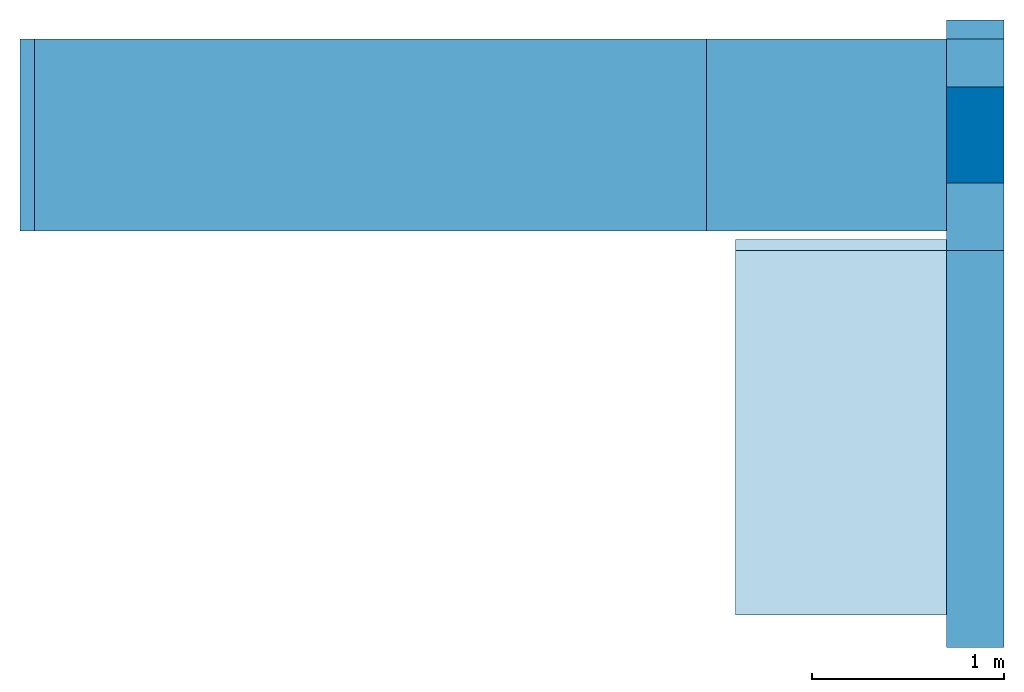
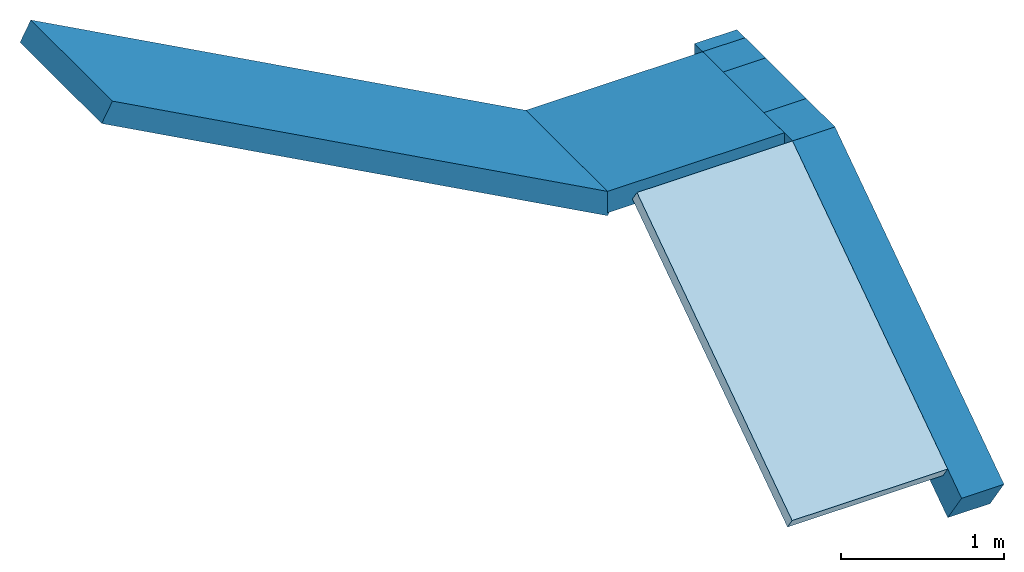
# One storey: 5 beams, 1 column, 1 slab.
"""IFC2X3 building model written with IfcOpenShell, lengths in metres."""

from ifc_helpers import new_model, si_unit, direction, frame, origin, origin_2d_with_axis, place, context, project, spatial, polyline, rectangle, outline, extrude, shape, element, save


model = new_model("IFC2X3")

# Units and contexts
model_context = context("Model", 3, precision=0.0, world=origin(), true_north=direction((0.0, 1.0)))
plan_context = context("Plan", 3, precision=0.0, world=origin(), true_north=direction((0.0, 1.0)))
ifc_project = project(units=[si_unit("LENGTHUNIT", "METRE"), si_unit("AREAUNIT", "SQUARE_METRE"), si_unit("VOLUMEUNIT", "CUBIC_METRE"), si_unit("PLANEANGLEUNIT", "RADIAN"), si_unit("THERMODYNAMICTEMPERATUREUNIT", "DEGREE_CELSIUS"), si_unit("FORCEUNIT", "NEWTON"), si_unit("MASSUNIT", "GRAM", prefix="KILO")], contexts=[model_context, plan_context])

# Site, building, storey
placement = place(None, origin())
site = spatial("IfcSite", under=ifc_project, at=placement, Name="Default Site", CompositionType="ELEMENT")
building = spatial("IfcBuilding", under=site, at=placement, Name="Default Building", CompositionType="ELEMENT")
storey_placement = place(placement, frame((0.0, 0.0, 1.3), z_axis=(1.0, 0.0, 0.0), x_axis=(0.0, 0.0, 1.0)))
storey = spatial("IfcBuildingStorey", under=building, at=storey_placement, Name="Piano 3", CompositionType="ELEMENT", Elevation=1.3)

# Column
column_placement = place(None, frame((10.1, 3.5, 1.3), z_axis=(0.0, 0.0, -1.0), x_axis=(-1.0, 0.0, 0.0)))
element("IfcColumn", 1, at=column_placement, inside=storey, Name="Pilastro:11 [Piano:3]", shapes=[
    shape(model_context, None, "SweptSolid", [extrude(rectangle(XDim=0.3, YDim=0.5, at=origin_2d_with_axis()), origin(), (0.0, 0.0, 1.0), 1.3)]),
])

# Beams
beam_1_placement = place(None, frame((10.1, 2.984703, 1.176204), z_axis=(0.0, -0.825307, -0.564684), x_axis=(1.0, 0.0, 0.0)))
element("IfcBeam", 2, at=beam_1_placement, inside=storey, Name="Trave:1 [Piano:3]", shapes=[
    shape(model_context, None, "SweptSolid", [extrude(rectangle(XDim=0.3, YDim=0.3, at=origin_2d_with_axis()), origin(), (0.0, 0.0, 1.0), 2.507436)]),
])
beam_2_placement = place(None, frame((8.7, 3.5, 1.22), z_axis=(1.0, 0.0, 0.0), x_axis=(0.0, 1.0, 0.0)))
element("IfcBeam", 3, at=beam_2_placement, inside=storey, Name="Trave:2 [Piano:3]", shapes=[
    shape(model_context, None, "SweptSolid", [extrude(rectangle(XDim=1.0, YDim=0.16, at=origin_2d_with_axis()), origin(), (0.0, 0.0, 1.0), 1.55)]),
])
beam_3_placement = place(None, frame((8.738167, 3.5, 1.188253), z_axis=(-0.878853, 0.0, 0.477092), x_axis=(0.0, -1.0, 0.0)))
element("IfcBeam", 4, at=beam_3_placement, inside=storey, Name="Trave:3 [Piano:3]", shapes=[
    shape(model_context, None, "SweptSolid", [extrude(rectangle(XDim=1.0, YDim=0.16, at=origin_2d_with_axis()), origin(), (0.0, 0.0, 1.0), 4.069319)]),
])
for number, where, z_axis, x_axis, name in (
    (5, (10.1, 2.9, 1.15), (0.0, 1.0, 0.0), (-1.0, 0.0, 0.0), "Trave:4 [Piano:3]"),
    (6, (10.1, 3.0, 1.15), (0.0, 1.0, 0.0), (-1.0, 0.0, 0.0), "Trave:5 [Piano:3]"),
):
    element("IfcBeam", number, at=place(None, frame(where, z_axis=z_axis, x_axis=x_axis)), inside=storey, Name=name, shapes=[
        shape(model_context, None, "SweptSolid", [extrude(rectangle(XDim=0.3, YDim=0.3, at=origin_2d_with_axis()), origin(), (0.0, 0.0, 1.0), 1.1)]),
    ])

# Slab
slab_placement = place(None, frame((9.475, 1.95, 0.65), z_axis=(0.0, 0.564684, -0.825307), x_axis=(-1.0, 0.0, 0.0)))
element("IfcSlab", 7, at=slab_placement, inside=storey, Name="Balcone:2 [Piano:3]", PredefinedType="FLOOR", shapes=[
    shape(model_context, None, "SweptSolid", [extrude(outline(polyline([(-0.625, 1.151086), (-0.625, -1.151086), (0.625, -1.151086), (0.625, 1.151086)])), origin(), (0.0, 0.0, 1.0), 0.1)]),
])

save(model, "model.ifc")
